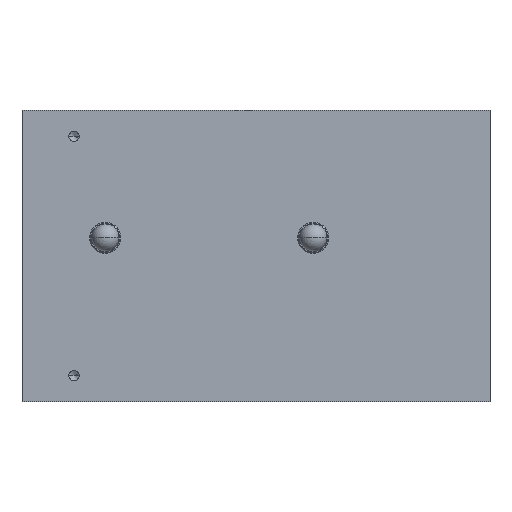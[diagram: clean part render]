
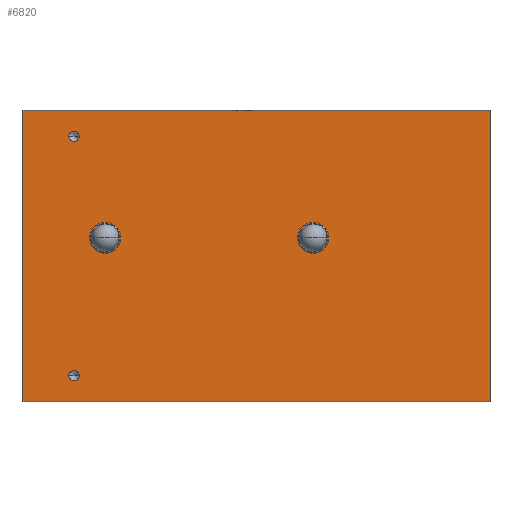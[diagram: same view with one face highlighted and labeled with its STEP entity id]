
A CAD part, left-side view. The second image highlights one B-rep face of the part: STEP entity #6820.
In plain terms, the highlighted planar face has unit normal (-1, 0, 0).
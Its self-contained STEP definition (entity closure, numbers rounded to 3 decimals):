
#51=DIRECTION('',(0.,-1.,0.));
#52=VECTOR('',#51,90.);
#53=CARTESIAN_POINT('',(30.,-30.,0.));
#54=LINE('',#53,#52);
#111=DIRECTION('',(0.,0.,1.));
#112=VECTOR('',#111,56.);
#113=CARTESIAN_POINT('',(30.,-30.,0.));
#114=LINE('',#113,#112);
#118=CARTESIAN_POINT('',(30.,-46.,31.5));
#119=DIRECTION('',(1.,0.,0.));
#120=DIRECTION('',(0.,-1.,0.));
#121=AXIS2_PLACEMENT_3D('',#118,#119,#120);
#126=CARTESIAN_POINT('',(30.,-46.,31.5));
#127=DIRECTION('',(1.,0.,0.));
#128=DIRECTION('',(0.,1.,0.));
#129=AXIS2_PLACEMENT_3D('',#126,#127,#128);
#134=CARTESIAN_POINT('',(30.,-86.,31.5));
#135=DIRECTION('',(1.,0.,0.));
#136=DIRECTION('',(0.,-1.,0.));
#137=AXIS2_PLACEMENT_3D('',#134,#135,#136);
#142=CARTESIAN_POINT('',(30.,-86.,31.5));
#143=DIRECTION('',(1.,0.,0.));
#144=DIRECTION('',(0.,1.,0.));
#145=AXIS2_PLACEMENT_3D('',#142,#143,#144);
#150=CARTESIAN_POINT('',(30.,-40.,51.));
#151=DIRECTION('',(-1.,0.,0.));
#152=DIRECTION('',(0.,1.,0.));
#153=AXIS2_PLACEMENT_3D('',#150,#151,#152);
#158=CARTESIAN_POINT('',(30.,-40.,51.));
#159=DIRECTION('',(-1.,0.,0.));
#160=DIRECTION('',(0.,-1.,0.));
#161=AXIS2_PLACEMENT_3D('',#158,#159,#160);
#166=CARTESIAN_POINT('',(30.,-40.,5.));
#167=DIRECTION('',(-1.,0.,0.));
#168=DIRECTION('',(0.,1.,0.));
#169=AXIS2_PLACEMENT_3D('',#166,#167,#168);
#174=CARTESIAN_POINT('',(30.,-40.,5.));
#175=DIRECTION('',(-1.,0.,0.));
#176=DIRECTION('',(0.,-1.,0.));
#177=AXIS2_PLACEMENT_3D('',#174,#175,#176);
#324=DIRECTION('',(0.,0.,1.));
#325=VECTOR('',#324,56.);
#326=CARTESIAN_POINT('',(30.,-120.,0.));
#327=LINE('',#326,#325);
#363=DIRECTION('',(0.,-1.,0.));
#364=VECTOR('',#363,90.);
#365=CARTESIAN_POINT('',(30.,-30.,56.));
#366=LINE('',#365,#364);
#6126=CARTESIAN_POINT('',(30.,-30.,0.));
#6127=CARTESIAN_POINT('',(30.,-120.,0.));
#6128=VERTEX_POINT('',#6126);
#6129=VERTEX_POINT('',#6127);
#6134=CARTESIAN_POINT('',(30.,-30.,56.));
#6135=CARTESIAN_POINT('',(30.,-120.,56.));
#6136=VERTEX_POINT('',#6134);
#6137=VERTEX_POINT('',#6135);
#6601=CARTESIAN_POINT('',(30.,-49.,31.5));
#6602=CARTESIAN_POINT('',(30.,-43.,31.5));
#6603=VERTEX_POINT('',#6601);
#6604=VERTEX_POINT('',#6602);
#6634=CARTESIAN_POINT('',(30.,-89.,31.5));
#6635=CARTESIAN_POINT('',(30.,-83.,31.5));
#6636=VERTEX_POINT('',#6634);
#6637=VERTEX_POINT('',#6635);
#6654=CARTESIAN_POINT('',(30.,-39.,51.));
#6655=CARTESIAN_POINT('',(30.,-41.,51.));
#6656=VERTEX_POINT('',#6654);
#6657=VERTEX_POINT('',#6655);
#6664=CARTESIAN_POINT('',(30.,-39.,5.));
#6665=CARTESIAN_POINT('',(30.,-41.,5.));
#6666=VERTEX_POINT('',#6664);
#6667=VERTEX_POINT('',#6665);
#6782=CARTESIAN_POINT('',(30.,-30.,0.));
#6783=DIRECTION('',(-1.,0.,0.));
#6784=DIRECTION('',(0.,-1.,0.));
#6785=AXIS2_PLACEMENT_3D('',#6782,#6783,#6784);
#6786=PLANE('',#6785);
#6787=ORIENTED_EDGE('',*,*,#6747,.F.);
#6789=ORIENTED_EDGE('',*,*,#6788,.T.);
#6791=ORIENTED_EDGE('',*,*,#6790,.T.);
#6793=ORIENTED_EDGE('',*,*,#6792,.F.);
#6794=EDGE_LOOP('',(#6787,#6789,#6791,#6793));
#6795=FACE_OUTER_BOUND('',#6794,.F.);
#6797=ORIENTED_EDGE('',*,*,#6796,.F.);
#6799=ORIENTED_EDGE('',*,*,#6798,.F.);
#6800=EDGE_LOOP('',(#6797,#6799));
#6801=FACE_BOUND('',#6800,.F.);
#6803=ORIENTED_EDGE('',*,*,#6802,.F.);
#6805=ORIENTED_EDGE('',*,*,#6804,.F.);
#6806=EDGE_LOOP('',(#6803,#6805));
#6807=FACE_BOUND('',#6806,.F.);
#6809=ORIENTED_EDGE('',*,*,#6808,.T.);
#6811=ORIENTED_EDGE('',*,*,#6810,.T.);
#6812=EDGE_LOOP('',(#6809,#6811));
#6813=FACE_BOUND('',#6812,.F.);
#6815=ORIENTED_EDGE('',*,*,#6814,.T.);
#6817=ORIENTED_EDGE('',*,*,#6816,.T.);
#6818=EDGE_LOOP('',(#6815,#6817));
#6819=FACE_BOUND('',#6818,.F.);
#122=CIRCLE('',#121,3.);
#130=CIRCLE('',#129,3.);
#138=CIRCLE('',#137,3.);
#146=CIRCLE('',#145,3.);
#154=CIRCLE('',#153,1.);
#162=CIRCLE('',#161,1.);
#170=CIRCLE('',#169,1.);
#178=CIRCLE('',#177,1.);
#6747=EDGE_CURVE('',#6128,#6129,#54,.T.);
#6788=EDGE_CURVE('',#6128,#6136,#114,.T.);
#6790=EDGE_CURVE('',#6136,#6137,#366,.T.);
#6792=EDGE_CURVE('',#6129,#6137,#327,.T.);
#6796=EDGE_CURVE('',#6603,#6604,#122,.T.);
#6798=EDGE_CURVE('',#6604,#6603,#130,.T.);
#6802=EDGE_CURVE('',#6636,#6637,#138,.T.);
#6804=EDGE_CURVE('',#6637,#6636,#146,.T.);
#6808=EDGE_CURVE('',#6656,#6657,#154,.T.);
#6810=EDGE_CURVE('',#6657,#6656,#162,.T.);
#6814=EDGE_CURVE('',#6666,#6667,#170,.T.);
#6816=EDGE_CURVE('',#6667,#6666,#178,.T.);
#6820=ADVANCED_FACE('',(#6795,#6801,#6807,#6813,#6819),#6786,.T.);
